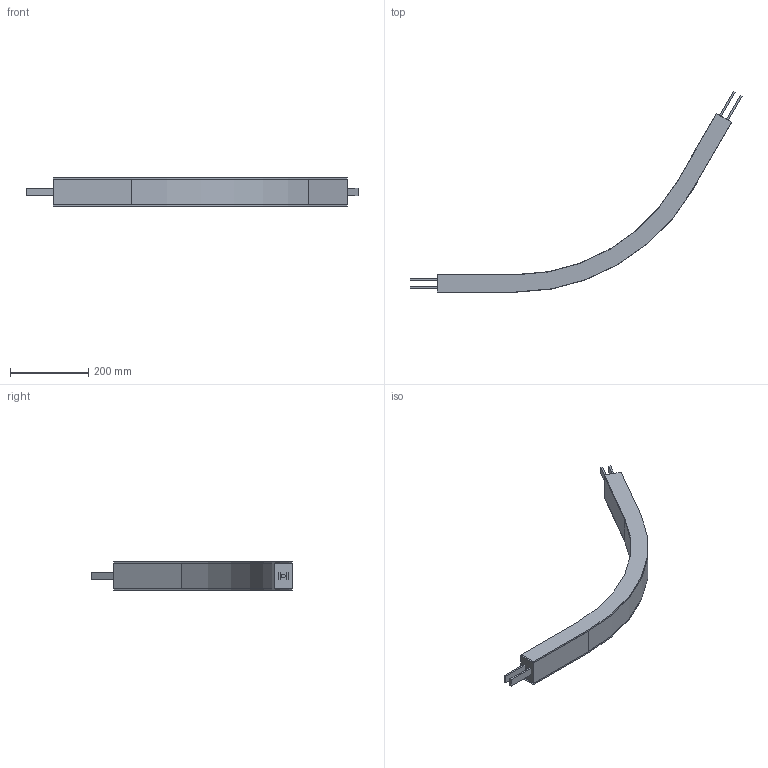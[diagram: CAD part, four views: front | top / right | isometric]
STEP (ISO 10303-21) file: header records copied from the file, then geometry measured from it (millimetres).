
FILE_DESCRIPTION(/* description */ ('Horizontaler Gleitbogen, 60°, R500'),/* implementation_level */ '2;1');
FILE_NAME(/* name */ 'T:\vdz0\Step Daten Website\modulflex FS-System\Horizontale Gleitbögen\FSBP60R500_53807.stp',/* time_stamp */ '2024-08-21T10:21:32+02:00',/* author */ ('lzb0'),/* organization */ ('modular automation GmbH'),/* preprocessor_version */ 'ST-DEVELOPER v18.1',/* originating_system */ 'Autodesk Inventor 2021',/* authorisation */ '');
FILE_SCHEMA (('AUTOMOTIVE_DESIGN { 1 0 10303 214 3 1 1 }'));
Length unit declared in the file: millimetre
Products named in the file (1): FSBP 60R500
Bounding box: 849.05 x 512.7 x 72.2 mm (x, y, z)
Volume: 2724276.9 mm3; surface area: 414251.3 mm2
Topology: 5 solids, 9 shells, 52 faces, 126 edges, 84 vertices
Faces by surface type: plane 44, cylinder 8
Full cylindrical faces by diameter (mm): 10 x2
Entity records: 1596 total; most frequent: CARTESIAN_POINT 270, DIRECTION 250, ORIENTED_EDGE 232, EDGE_CURVE 126, LINE 110, VECTOR 110, VERTEX_POINT 84, AXIS2_PLACEMENT_3D 70
